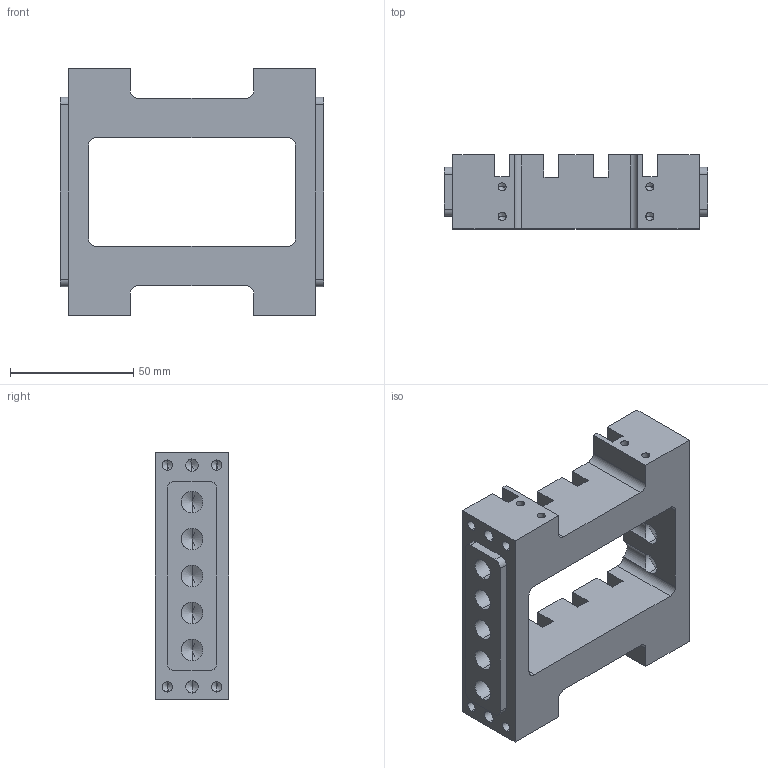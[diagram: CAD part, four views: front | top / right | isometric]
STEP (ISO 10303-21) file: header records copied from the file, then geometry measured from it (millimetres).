
FILE_DESCRIPTION (( 'STEP AP203' ), '1' );
FILE_NAME ('FB-003-07B驗芛假蚾釱.STEP', '2025-03-19T05:48:25', ( 'Windows 蚚誧' ), ( 'Organization' ), 'SwSTEP 2.0', 'SolidWorks 2020', '' );
FILE_SCHEMA (( 'CONFIG_CONTROL_DESIGN' ));
Length unit declared in the file: millimetre
Products named in the file (1): FB-003-07B驗芛假蚾釱
Bounding box: 107 x 30 x 100 mm (x, y, z)
Volume: 128910.9 mm3; surface area: 45861.2 mm2
Topology: 1 solids, 1 shells, 221 faces, 612 edges, 353 vertices
Faces by surface type: cylinder 108, plane 63, cone 50
Entity records: 6769 total; most frequent: CARTESIAN_POINT 1255, DIRECTION 1148, ORIENTED_EDGE 1124, EDGE_CURVE 562, AXIS2_PLACEMENT_3D 398, VERTEX_POINT 353, VECTOR 352, LINE 352
